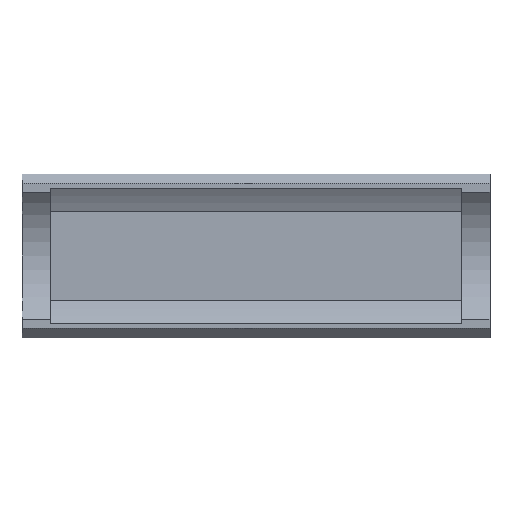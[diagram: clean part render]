
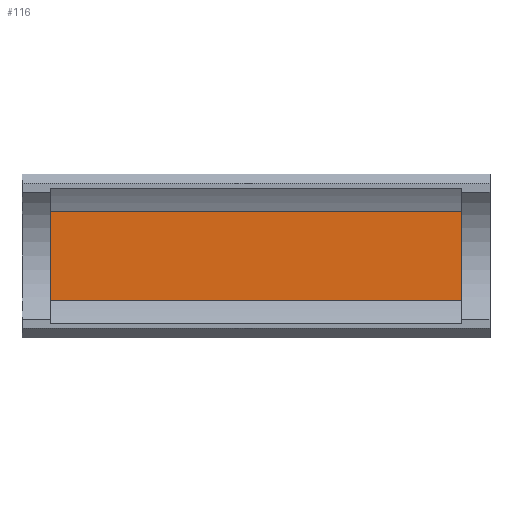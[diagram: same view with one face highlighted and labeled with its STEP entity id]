
A CAD part, top view. The second image highlights one B-rep face of the part: STEP entity #116.
In plain terms, the highlighted planar face has unit normal (0, 0, 1).
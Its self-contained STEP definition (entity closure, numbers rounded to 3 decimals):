
#116=ADVANCED_FACE('',(#430),#432,.T.);
#430=FACE_BOUND('',#431,.T.);
#431=EDGE_LOOP('',(#681,#682,#683,#684));
#432=PLANE('',#433);
#433=AXIS2_PLACEMENT_3D('',#434,#435,#436);
#434=CARTESIAN_POINT('',(-17.664,29.099,0.712));
#435=DIRECTION('',(0.,0.,1.));
#436=DIRECTION('',(0.,-1.,0.));
#681=ORIENTED_EDGE('',*,*,#845,.T.);
#682=ORIENTED_EDGE('',*,*,#848,.T.);
#683=ORIENTED_EDGE('',*,*,#829,.T.);
#684=ORIENTED_EDGE('',*,*,#849,.F.);
#829=EDGE_CURVE('',#937,#934,#938,.F.);
#845=EDGE_CURVE('',#956,#965,#967,.F.);
#848=EDGE_CURVE('',#965,#937,#970,.T.);
#849=EDGE_CURVE('',#956,#934,#971,.T.);
#934=VERTEX_POINT('',#1117);
#937=VERTEX_POINT('',#1123);
#938=LINE('',#1124,#1125);
#956=VERTEX_POINT('',#1164);
#965=VERTEX_POINT('',#1185);
#967=LINE('',#1190,#1191);
#970=LINE('',#1199,#1200);
#971=LINE('',#1202,#1203);
#1117=CARTESIAN_POINT('',(17.536,29.099,0.712));
#1123=CARTESIAN_POINT('',(17.536,21.499,0.712));
#1124=CARTESIAN_POINT('',(17.536,29.099,0.712));
#1125=VECTOR('',#1126,1.);
#1126=DIRECTION('',(0.,-1.,0.));
#1164=CARTESIAN_POINT('',(-17.664,29.099,0.712));
#1185=CARTESIAN_POINT('',(-17.664,21.499,0.712));
#1190=CARTESIAN_POINT('',(-17.664,21.499,0.712));
#1191=VECTOR('',#1192,1.);
#1192=DIRECTION('',(0.,1.,0.));
#1199=CARTESIAN_POINT('',(-17.664,21.499,0.712));
#1200=VECTOR('',#1201,1.);
#1201=DIRECTION('',(1.,0.,0.));
#1202=CARTESIAN_POINT('',(-17.664,29.099,0.712));
#1203=VECTOR('',#1204,1.);
#1204=DIRECTION('',(1.,0.,0.));
